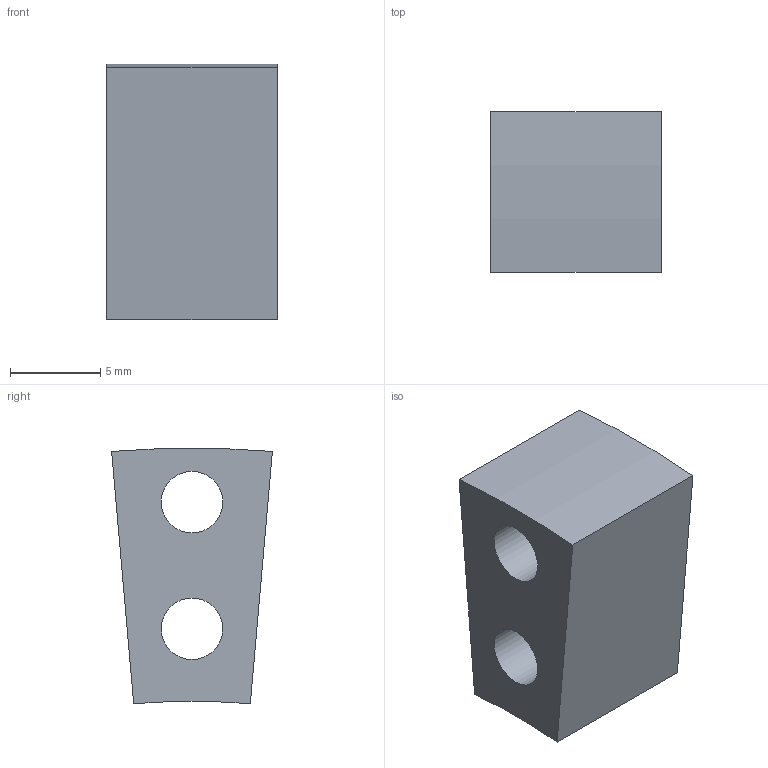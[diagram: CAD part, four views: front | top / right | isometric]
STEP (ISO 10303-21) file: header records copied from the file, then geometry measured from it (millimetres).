
FILE_DESCRIPTION(('Open CASCADE Model'),'2;1');
FILE_NAME('Open CASCADE Shape Model','2026-11-04T08:45:16',('Author'),( 'Open CASCADE'),'Open CASCADE STEP processor 7.8','Open CASCADE 7.8' ,'Unknown');
FILE_SCHEMA(('AUTOMOTIVE_DESIGN { 1 0 10303 214 1 1 1 1 }'));
Length unit declared in the file: millimetre
Products named in the file (1): Open CASCADE STEP translator 7.8 9
Bounding box: 9.4 x 8.89 x 14.12 mm (x, y, z)
Volume: 839.9 mm3; surface area: 787.1 mm2
Topology: 1 solids, 1 shells, 8 faces, 18 edges, 12 vertices
Faces by surface type: cylinder 4, plane 4
Full cylindrical faces by diameter (mm): 3.4 x2
Entity records: 500 total; most frequent: CARTESIAN_POINT 111, DIRECTION 74, LINE 38, VECTOR 38, ORIENTED_EDGE 36, PCURVE 36, DEFINITIONAL_REPRESENTATION 36, EDGE_CURVE 18
